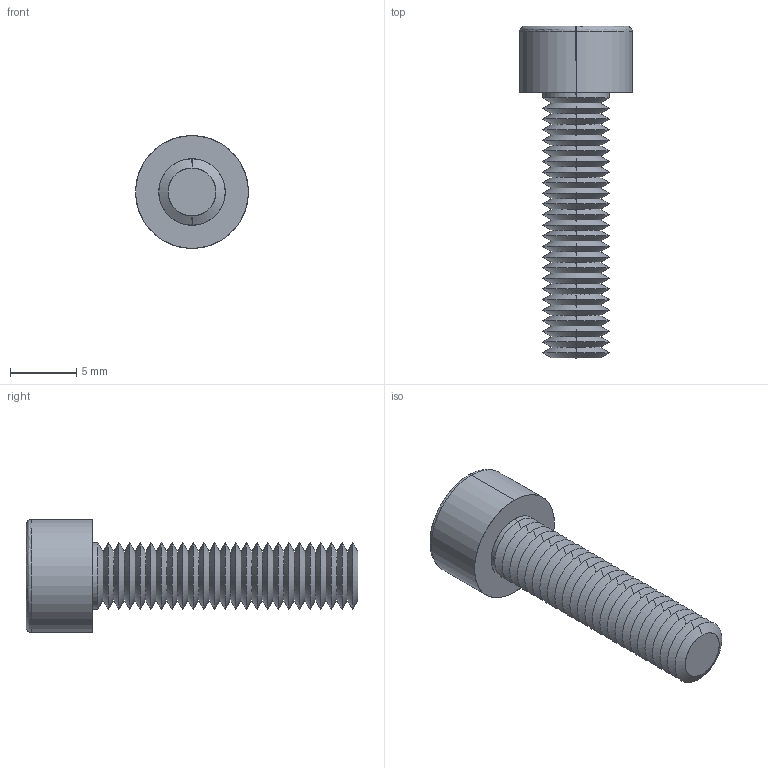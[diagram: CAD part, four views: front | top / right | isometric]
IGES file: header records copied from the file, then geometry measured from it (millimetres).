
Start section: SolidWorks IGES file using analytic representation for surfaces
Global section: file name: C:\Users\ianosborn\Desktop\N0007.91N_v2\N0007.91N_v2_20250519_IGES\91N.050.0200.igs; native system: SolidWorks 2019; preprocessor: SolidWorks 2019; author: IanOsborn; date: 250520.095201; units: millimetre
Bounding box: 8.5 x 25 x 8.5 mm (x, y, z)
Surface area: 826.4 mm2 (no closed solid volume)
Topology: 0 solids, 0 shells, 128 faces, 709 edges, 707 vertices
Faces by surface type: revolution 111, bspline 17
